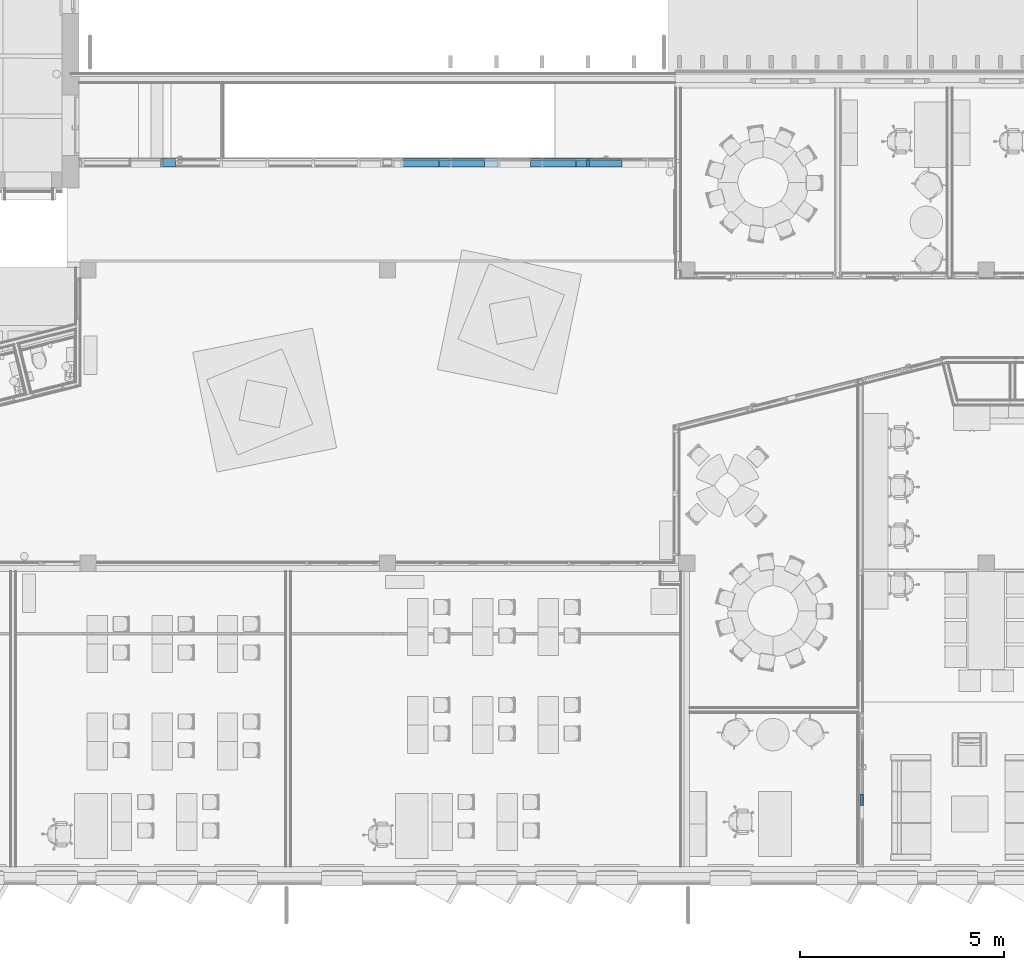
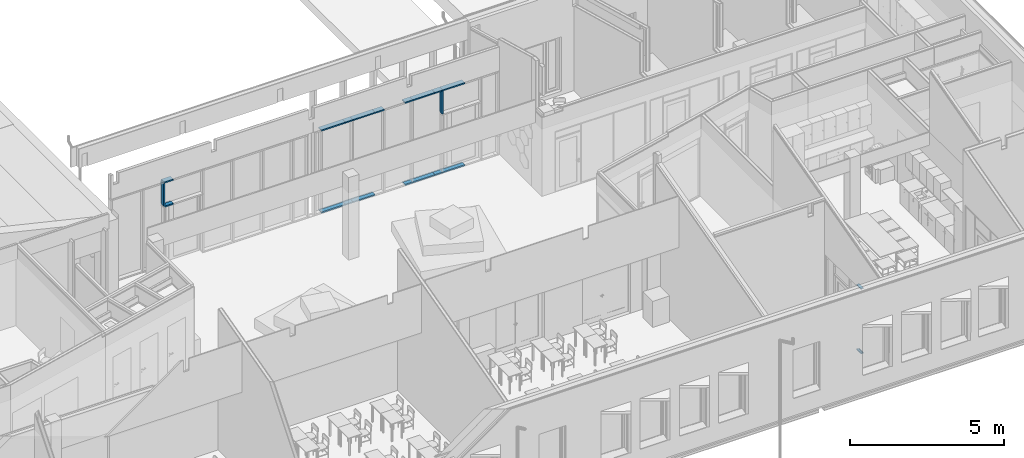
# One storey, part 4 of 153: 21 members, 3 elements without a shape of their own.
"""IFC2X3 building model written with IfcOpenShell, lengths in millimetres."""

from ifc_helpers import new_model, entity, si_unit, converted_unit, derived_unit, money_unit, direction, frame, origin_with_axes, place, context, subcontext, project, spatial, faceted_brep, source, transform, mapped, material, type_object, element, aggregate, save


model = new_model("IFC2X3")

# Units and contexts
model_context = context("Model", 3, precision=0.01, world=origin_with_axes(), true_north=direction((0.0, 1.0)))
body_context = subcontext(model_context, "Body", "Model", "MODEL_VIEW")
ifc_project = project(units=[si_unit("LENGTHUNIT", "METRE", prefix="MILLI"), si_unit("AREAUNIT", "SQUARE_METRE"), si_unit("VOLUMEUNIT", "CUBIC_METRE"), converted_unit("PLANEANGLEUNIT", "DEGREE", entity("IfcPlaneAngleMeasure", 0.0174532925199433), si_unit("PLANEANGLEUNIT", "RADIAN"), dimensions=[0, 0, 0, 0, 0, 0, 0]), money_unit("EUR"), converted_unit("TIMEUNIT", "Year", entity("IfcTimeMeasure", 31557600.0), si_unit("TIMEUNIT", "SECOND"), dimensions=[0, 0, 1, 0, 0, 0, 0]), si_unit("MASSUNIT", "GRAM", prefix="KILO"), si_unit("THERMODYNAMICTEMPERATUREUNIT", "DEGREE_CELSIUS"), si_unit("LUMINOUSINTENSITYUNIT", "LUMEN"), si_unit("ENERGYUNIT", "JOULE", prefix="MEGA"), derived_unit("THERMALCONDUCTANCEUNIT", [(si_unit("POWERUNIT", "WATT"), 1), (si_unit("LENGTHUNIT", "METRE"), -1), (si_unit("THERMODYNAMICTEMPERATUREUNIT", "KELVIN"), -1)]), derived_unit("SPECIFICHEATCAPACITYUNIT", [(si_unit("ENERGYUNIT", "JOULE"), 1), (si_unit("MASSUNIT", "GRAM", prefix="KILO"), -1), (si_unit("THERMODYNAMICTEMPERATUREUNIT", "KELVIN"), -1)]), derived_unit("MASSDENSITYUNIT", [(si_unit("MASSUNIT", "GRAM", prefix="KILO"), 1), (si_unit("VOLUMEUNIT", "CUBIC_METRE"), -1)])], contexts=[model_context])

# Site, building, storey
site_placement = place(None, frame((0.0, 0.0, 8650.0), z_axis=(0.0, 0.0, 1.0), x_axis=(1.0, 0.0, 0.0)))
site = spatial("IfcSite", under=ifc_project, at=site_placement, Name="43301:001:0844", CompositionType="ELEMENT")
building_placement = place(site_placement, origin_with_axes())
building = spatial("IfcBuilding", under=site, at=building_placement, Name="Kuressaare Ametikooli tuulikute mehaanikute õppekorpus", CompositionType="ELEMENT")
storey_placement = place(building_placement, frame((0.0, 0.0, 4100.0), z_axis=(0.0, 0.0, 1.0), x_axis=(1.0, 0.0, 0.0)))
storey = spatial("IfcBuildingStorey", under=building, at=storey_placement, Name="2.korrus", CompositionType="ELEMENT", Elevation=4100.0)

# Curtain wall, member
curtain_wall_type = type_object("IfcCurtainWallType", Name="Curtain Wall Type", PredefinedType="NOTDEFINED")
curtain_wall_1_placement = place(storey_placement, frame((107592.1026822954, 26479.57374875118, 34.9999663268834), z_axis=(0.0, 0.0, 1.0), x_axis=(1.0, 0.0, 0.0)))
curtain_wall_1 = element("IfcCurtainWall", 1, at=curtain_wall_1_placement, inside=storey, type_object=curtain_wall_type, Name="SKF-2.1,EI60")
ifc_material = material(Name="Aluminium")
member_type_1 = type_object("IfcMemberType", Name="Boundary Frame 50 x 200", PredefinedType="NOTDEFINED")
shared_shape_1 = source(origin_with_axes(), body_context, "Body", "Brep", [
    faceted_brep([(5.000000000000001, -20.0, 335.0000065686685), (5.000000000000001, 20.0, 335.0000065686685), (25.0, 20.0, 335.0000065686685), (25.0, 30.0, 335.0000065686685), (-25.0, 30.0, 335.0000065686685), (-25.0, 19.99999999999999, 335.0000065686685), (-5.000000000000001, 20.0, 335.0000065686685), (-5.000000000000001, -20.0, 335.0000065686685), (-25.0, -19.99999999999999, 335.0000065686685), (-25.0, -170.0, 335.0000065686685), (25.0, -170.0, 335.0000065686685), (25.0, -20.0, 335.0000065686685), (5.000000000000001, -20.0, -3.724831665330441e-05), (5.000000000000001, 20.0, -3.724831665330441e-05), (25.0, 20.0, -3.724831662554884e-05), (25.0, 30.0, -3.724831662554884e-05), (-25.0, 30.0, -3.724831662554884e-05), (-25.0, 19.99999999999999, -3.724831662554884e-05), (-5.000000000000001, 20.0, -3.724831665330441e-05), (-5.000000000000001, -20.0, -3.724831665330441e-05), (-25.0, -19.99999999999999, -3.724831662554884e-05), (-25.0, -170.0, -3.724831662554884e-05), (25.0, -170.0, -3.724831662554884e-05), (25.0, -20.0, -3.724831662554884e-05)], [[[0, 1, 2, 3, 4, 5, 6, 7, 8, 9, 10, 11]], [[0, 12, 13, 1]], [[1, 13, 14, 2]], [[14, 15, 3, 2]], [[3, 15, 16, 4]], [[17, 5, 4, 16]], [[5, 17, 18, 6]], [[7, 6, 18, 19]], [[8, 7, 19, 20]], [[8, 20, 21, 9]], [[9, 21, 22, 10]], [[11, 10, 22, 23]], [[11, 23, 12, 0]], [[13, 12, 23, 22, 21, 20, 19, 18, 17, 16, 15, 14]]]),
])
member_1_placement = place(curtain_wall_1_placement, frame((-1910.000006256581, 0.0, 2300.000005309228), z_axis=(1.0, 0.0, 0.0), x_axis=(0.0, 0.0, 1.0)))
member_1 = element("IfcMember", 2, at=member_1_placement, type_object=member_type_1, material=ifc_material, context=body_context, shape_type="MappedRepresentation", body=[
    mapped(shared_shape_1, transform((0.0, 0.0, 0.0), x_axis=(-1.0, 0.0, 0.0), y_axis=(0.0, -1.0, 0.0), z_axis=(0.0, 0.0, 1.0))),
])

# Curtain wall, members
curtain_wall_2_placement = place(storey_placement, frame((116907.3849272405, 26479.57374875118, 34.9999663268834), z_axis=(0.0, 0.0, 1.0), x_axis=(1.0, 0.0, 0.0)))
curtain_wall_2 = element("IfcCurtainWall", 3, at=curtain_wall_2_placement, inside=storey, type_object=curtain_wall_type, Name="SKF-2.2,EI60")
shared_shape_2 = source(origin_with_axes(), body_context, "Body", "Brep", [
    faceted_brep([(-5.000000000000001, -20.0, 289.1533159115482), (-25.0, -19.99999999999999, 289.1533159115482), (-25.0, -170.0, 289.1533159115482), (25.0, -170.0, 289.1533159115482), (25.0, 30.0, 289.1533159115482), (-25.0, 30.0, 289.1533159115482), (-25.0, 19.99999999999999, 289.1533159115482), (-5.000000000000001, 20.0, 289.1533159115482), (-5.000000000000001, -20.0, 0.0), (-25.0, -19.99999999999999, 0.0), (-25.0, -170.0, 0.0), (25.0, -170.0, 0.0), (25.0, 30.0, 0.0), (-25.0, 30.0, 0.0), (-25.0, 19.99999999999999, 0.0), (-5.000000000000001, 20.0, 0.0)], [[[0, 1, 2, 3, 4, 5, 6, 7]], [[0, 8, 9, 1]], [[9, 10, 2, 1]], [[10, 11, 3, 2]], [[11, 12, 4, 3]], [[12, 13, 5, 4]], [[6, 5, 13, 14]], [[14, 15, 7, 6]], [[7, 15, 8, 0]], [[8, 15, 14, 13, 12, 11, 10, 9]]]),
])
member_2_placement = place(curtain_wall_2_placement, frame((-4140.282223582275, 0.0, 3259.999983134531), z_axis=(-1.0, 0.0, 0.0), x_axis=(0.0, 0.0, -1.0)))
member_2 = element("IfcMember", 4, at=member_2_placement, type_object=member_type_1, material=ifc_material, context=body_context, shape_type="MappedRepresentation", body=[
    mapped(shared_shape_2, transform((0.0, 0.0, 0.0), x_axis=(-1.0, 0.0, 0.0), y_axis=(0.0, -1.0, 0.0), z_axis=(0.0, 0.0, 1.0))),
])
member_3_placement = place(curtain_wall_2_placement, frame((-1890.282222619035, 0.0, 3259.999983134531), z_axis=(-1.0, 0.0, 0.0), x_axis=(0.0, 0.0, -1.0)))
member_3 = element("IfcMember", 5, at=member_3_placement, type_object=member_type_1, material=ifc_material, context=body_context, shape_type="MappedRepresentation", body=[
    mapped(shared_shape_2, transform((0.0, 0.0, 0.0), x_axis=(-1.0, 0.0, 0.0), y_axis=(0.0, -1.0, 0.0), z_axis=(0.0, 0.0, 1.0))),
])
member_4_placement = place(curtain_wall_2_placement, frame((-765.2822250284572, 0.0, 3259.999983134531), z_axis=(-1.0, 0.0, 0.0), x_axis=(0.0, 0.0, -1.0)))
member_4 = element("IfcMember", 6, at=member_4_placement, type_object=member_type_1, material=ifc_material, context=body_context, shape_type="MappedRepresentation", body=[
    mapped(shared_shape_2, transform((0.0, 0.0, 0.0), x_axis=(-1.0, 0.0, 0.0), y_axis=(0.0, -1.0, 0.0), z_axis=(0.0, 0.0, 1.0))),
])
member_5_placement = place(curtain_wall_2_placement, frame((-2179.435552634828, 0.0, 0.0), z_axis=(1.0, 0.0, 0.0), x_axis=(0.0, 0.0, 1.0)))
member_5 = element("IfcMember", 7, at=member_5_placement, type_object=member_type_1, material=ifc_material, context=body_context, shape_type="MappedRepresentation", body=[
    mapped(shared_shape_2, transform((0.0, 0.0, 0.0), x_axis=(-1.0, 0.0, 0.0), y_axis=(0.0, -1.0, 0.0), z_axis=(0.0, 0.0, 1.0))),
])
member_6_placement = place(curtain_wall_2_placement, frame((-1054.435552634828, 0.0, 0.0), z_axis=(1.0, 0.0, 0.0), x_axis=(0.0, 0.0, 1.0)))
member_6 = element("IfcMember", 8, at=member_6_placement, type_object=member_type_1, material=ifc_material, context=body_context, shape_type="MappedRepresentation", body=[
    mapped(shared_shape_2, transform((0.0, 0.0, 0.0), x_axis=(-1.0, 0.0, 0.0), y_axis=(0.0, -1.0, 0.0), z_axis=(0.0, 0.0, 1.0))),
])
member_7_placement = place(curtain_wall_2_placement, frame((-4429.435552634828, 0.0, 0.0), z_axis=(1.0, 0.0, 0.0), x_axis=(0.0, 0.0, 1.0)))
member_7 = element("IfcMember", 9, at=member_7_placement, type_object=member_type_1, material=ifc_material, context=body_context, shape_type="MappedRepresentation", body=[
    mapped(shared_shape_2, transform((0.0, 0.0, 0.0), x_axis=(-1.0, 0.0, 0.0), y_axis=(0.0, -1.0, 0.0), z_axis=(0.0, 0.0, 1.0))),
])
shared_shape_3 = source(origin_with_axes(), body_context, "Body", "Brep", [
    faceted_brep([(-5.000000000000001, -20.0, 835.8466840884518), (-25.0, -19.99999999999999, 835.8466840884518), (-25.0, -170.0, 835.8466840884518), (25.0, -170.0, 835.8466840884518), (25.0, 30.0, 835.8466840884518), (-25.0, 30.0, 835.8466840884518), (-25.0, 19.99999999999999, 835.8466840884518), (-5.000000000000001, 20.0, 835.8466840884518), (-5.000000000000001, -20.0, 0.0), (-25.0, -19.99999999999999, 0.0), (-25.0, -170.0, 0.0), (25.0, -170.0, 0.0), (25.0, 30.0, 0.0), (-25.0, 30.0, 0.0), (-25.0, 19.99999999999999, 0.0), (-5.000000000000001, 20.0, 0.0)], [[[0, 1, 2, 3, 4, 5, 6, 7]], [[0, 8, 9, 1]], [[9, 10, 2, 1]], [[10, 11, 3, 2]], [[11, 12, 4, 3]], [[12, 13, 5, 4]], [[6, 5, 13, 14]], [[14, 15, 7, 6]], [[7, 15, 8, 0]], [[8, 15, 14, 13, 12, 11, 10, 9]]]),
])
member_8_placement = place(curtain_wall_2_placement, frame((-3304.435552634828, 0.0, 3259.999983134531), z_axis=(-1.0, 0.0, 0.0), x_axis=(0.0, 0.0, -1.0)))
member_8 = element("IfcMember", 10, at=member_8_placement, type_object=member_type_1, material=ifc_material, context=body_context, shape_type="MappedRepresentation", body=[
    mapped(shared_shape_3, transform((0.0, 0.0, 0.0), x_axis=(-1.0, 0.0, 0.0), y_axis=(0.0, -1.0, 0.0), z_axis=(0.0, 0.0, 1.0))),
])
member_9_placement = place(curtain_wall_2_placement, frame((-1054.435552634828, 0.0, 3259.999983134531), z_axis=(-1.0, 0.0, 0.0), x_axis=(0.0, 0.0, -1.0)))
member_9 = element("IfcMember", 11, at=member_9_placement, type_object=member_type_1, material=ifc_material, context=body_context, shape_type="MappedRepresentation", body=[
    mapped(shared_shape_3, transform((0.0, 0.0, 0.0), x_axis=(-1.0, 0.0, 0.0), y_axis=(0.0, -1.0, 0.0), z_axis=(0.0, 0.0, 1.0))),
])
member_10_placement = place(curtain_wall_2_placement, frame((70.56444736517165, 0.0, 3259.999983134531), z_axis=(-1.0, 0.0, 0.0), x_axis=(0.0, 0.0, -1.0)))
member_10 = element("IfcMember", 12, at=member_10_placement, type_object=member_type_1, material=ifc_material, context=body_context, shape_type="MappedRepresentation", body=[
    mapped(shared_shape_3, transform((0.0, 0.0, 0.0), x_axis=(-1.0, 0.0, 0.0), y_axis=(0.0, -1.0, 0.0), z_axis=(0.0, 0.0, 1.0))),
])
member_11_placement = place(curtain_wall_2_placement, frame((-4140.28223672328, 0.0, 0.0), z_axis=(1.0, 0.0, 0.0), x_axis=(0.0, 0.0, 1.0)))
member_11 = element("IfcMember", 13, at=member_11_placement, type_object=member_type_1, material=ifc_material, context=body_context, shape_type="MappedRepresentation", body=[
    mapped(shared_shape_3, transform((0.0, 0.0, 0.0), x_axis=(-1.0, 0.0, 0.0), y_axis=(0.0, -1.0, 0.0), z_axis=(0.0, 0.0, 1.0))),
])
member_12_placement = place(curtain_wall_2_placement, frame((-1890.28223576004, 0.0, 0.0), z_axis=(1.0, 0.0, 0.0), x_axis=(0.0, 0.0, 1.0)))
member_12 = element("IfcMember", 14, at=member_12_placement, type_object=member_type_1, material=ifc_material, context=body_context, shape_type="MappedRepresentation", body=[
    mapped(shared_shape_3, transform((0.0, 0.0, 0.0), x_axis=(-1.0, 0.0, 0.0), y_axis=(0.0, -1.0, 0.0), z_axis=(0.0, 0.0, 1.0))),
])
member_13_placement = place(curtain_wall_2_placement, frame((-765.2822352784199, 0.0, 0.0), z_axis=(1.0, 0.0, 0.0), x_axis=(0.0, 0.0, 1.0)))
member_13 = element("IfcMember", 15, at=member_13_placement, type_object=member_type_1, material=ifc_material, context=body_context, shape_type="MappedRepresentation", body=[
    mapped(shared_shape_3, transform((0.0, 0.0, 0.0), x_axis=(-1.0, 0.0, 0.0), y_axis=(0.0, -1.0, 0.0), z_axis=(0.0, 0.0, 1.0))),
])

curtain_wall_3_placement = place(storey_placement, frame((122879.3962682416, 12626.24529387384, 0.0), z_axis=(0.0, 0.0, 1.0), x_axis=(1.0, 0.0, 0.0)))
curtain_wall_3 = element("IfcCurtainWall", 16, at=curtain_wall_3_placement, inside=storey, type_object=curtain_wall_type, Name="PKF-3")
member_type_2 = type_object("IfcMemberType", Name="Boundary Frame 40 x 90", PredefinedType="NOTDEFINED")
shared_shape_4 = source(origin_with_axes(), body_context, "Body", "Brep", [
    faceted_brep([(-25.0, -15.0, 287.0486471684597), (-40.0, -15.0, 287.0486471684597), (-40.0, -65.0, 287.0486471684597), (0.0, -65.0, 287.0486471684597), (0.0, 0.0, 287.0486471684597), (0.0, 24.99999999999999, 287.0486471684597), (-40.0, 24.99999999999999, 287.0486471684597), (-40.0, 15.0, 287.0486471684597), (-25.0, 15.0, 287.0486471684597), (-25.0, -15.0, 0.0), (-40.0, -15.0, 0.0), (-40.0, -65.0, 0.0), (0.0, -65.0, 0.0), (0.0, 0.0, 0.0), (0.0, 24.99999999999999, 0.0), (-40.0, 24.99999999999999, 0.0), (-40.0, 15.0, 0.0), (-25.0, 15.0, 0.0)], [[[0, 1, 2, 3, 4, 5, 6, 7, 8]], [[0, 9, 10, 1]], [[10, 11, 2, 1]], [[11, 12, 3, 2]], [[12, 13, 4, 3]], [[13, 14, 5, 4]], [[14, 15, 6, 5]], [[7, 6, 15, 16]], [[16, 17, 8, 7]], [[8, 17, 9, 0]], [[9, 17, 16, 15, 14, 13, 12, 11, 10]]]),
])
member_14_placement = place(curtain_wall_3_placement, frame((0.0, -2004.984537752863, 2600.0), z_axis=(0.0, 1.0, 0.0), x_axis=(0.0, 0.0, 1.0)))
member_14 = element("IfcMember", 17, at=member_14_placement, type_object=member_type_2, material=ifc_material, context=body_context, shape_type="MappedRepresentation", body=[
    mapped(shared_shape_4, transform((0.0, 0.0, 0.0))),
])
shared_shape_5 = source(origin_with_axes(), body_context, "Body", "Brep", [
    faceted_brep([(25.0, -15.0, 287.0486471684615), (25.0, 15.0, 287.0486471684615), (40.0, 15.0, 287.0486471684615), (40.0, 24.99999999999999, 287.0486471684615), (0.0, 24.99999999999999, 287.0486471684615), (0.0, 0.0, 287.0486471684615), (0.0, -65.0, 287.0486471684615), (40.0, -65.0, 287.0486471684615), (40.0, -15.0, 287.0486471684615), (25.0, -15.0, 0.0), (25.0, 15.0, 0.0), (40.0, 15.0, 0.0), (40.0, 24.99999999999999, 0.0), (0.0, 24.99999999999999, 0.0), (0.0, 0.0, 0.0), (0.0, -65.0, 0.0), (40.0, -65.0, 0.0), (40.0, -15.0, 0.0)], [[[0, 1, 2, 3, 4, 5, 6, 7, 8]], [[1, 0, 9, 10]], [[11, 2, 1, 10]], [[2, 11, 12, 3]], [[13, 4, 3, 12]], [[14, 5, 4, 13]], [[15, 6, 5, 14]], [[16, 7, 6, 15]], [[17, 8, 7, 16]], [[0, 8, 17, 9]], [[9, 17, 16, 15, 14, 13, 12, 11, 10]]]),
])
member_15_placement = place(curtain_wall_3_placement, frame((0.0, -2004.984537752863, 0.0), z_axis=(0.0, 1.0, 0.0), x_axis=(0.0, 0.0, 1.0)))
member_15 = element("IfcMember", 18, at=member_15_placement, type_object=member_type_2, material=ifc_material, context=body_context, shape_type="MappedRepresentation", body=[
    mapped(shared_shape_5, transform((0.0, 0.0, 0.0))),
])
aggregate(curtain_wall_3, [member_14, member_15])

# Member
member_type_3 = type_object("IfcMemberType", Name="Mullion Frame 50 x 200", PredefinedType="NOTDEFINED")
shared_shape_6 = source(origin_with_axes(), body_context, "Body", "Brep", [
    faceted_brep([(5.000000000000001, -20.0, 935.0000344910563), (5.000000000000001, 20.0, 935.0000346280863), (25.0, 19.99999999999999, 935.0000346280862), (25.0, 30.0, 935.0000346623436), (-25.0, 30.0, 935.0000346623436), (-25.0, 20.0, 935.0000346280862), (-5.000000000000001, 20.0, 935.0000346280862), (-5.000000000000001, -20.0, 935.0000344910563), (-25.0, -20.0, 935.0000344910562), (-25.0, -170.0, 935.000033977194), (25.0, -170.0, 935.000033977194), (25.0, -19.99999999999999, 935.0000344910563), (5.000000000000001, -20.0, 25.00002973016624), (5.000000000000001, 20.0, 24.99997026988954), (25.0, 20.0, 24.99997026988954), (25.0, 30.0, 24.99995540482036), (-25.0, 30.0, 24.99995540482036), (-25.0, 19.99999999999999, 24.99997026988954), (-5.000000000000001, 20.0, 24.99997026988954), (-5.000000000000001, -20.0, 25.00002973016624), (-25.0, -19.99999999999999, 25.00002973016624), (-25.0, -170.0, 25.00025270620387), (25.0, -170.0, 25.00025270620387), (25.0, -20.0, 25.00002973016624)], [[[0, 1, 2, 3, 4, 5, 6, 7, 8, 9, 10, 11]], [[0, 12, 13, 1]], [[1, 13, 14, 2]], [[14, 15, 3, 2]], [[4, 3, 15, 16]], [[17, 5, 4, 16]], [[5, 17, 18, 6]], [[7, 6, 18, 19]], [[8, 7, 19, 20]], [[8, 20, 21, 9]], [[10, 9, 21, 22]], [[11, 10, 22, 23]], [[11, 23, 12, 0]], [[13, 12, 23, 22, 21, 20, 19, 18, 17, 16, 15, 14]]]),
])
member_16_placement = place(curtain_wall_1_placement, frame((-1919.216088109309, 0.0, 2300.000019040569), z_axis=(3.425748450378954e-09, 0.0, 1.0), x_axis=(-1.0, 0.0, 3.425748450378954e-09)))
member_16 = element("IfcMember", 19, at=member_16_placement, type_object=member_type_3, material=ifc_material, context=body_context, shape_type="MappedRepresentation", body=[
    mapped(shared_shape_6, transform((0.0, 0.0, 0.0), x_axis=(-1.0, 0.0, 3.425748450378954e-09), y_axis=(0.0, -1.0, 0.0), z_axis=(3.425748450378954e-09, 0.0, 1.0))),
])

member_17_placement = place(curtain_wall_2_placement, frame((-765.2822352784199, 0.0, 2300.000031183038), z_axis=(1.067704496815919e-08, 0.0, 1.0), x_axis=(-1.0, 0.0, 1.067704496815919e-08)))
member_17 = element("IfcMember", 20, at=member_17_placement, type_object=member_type_3, material=ifc_material, context=body_context, shape_type="MappedRepresentation", body=[
    mapped(shared_shape_6, transform((0.0, 0.0, 0.0), x_axis=(-1.0, 0.0, 1.067704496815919e-08), y_axis=(0.0, -1.0, 0.0), z_axis=(1.067704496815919e-08, 0.0, 1.0))),
])

shared_shape_7 = source(origin_with_axes(), body_context, "Body", "Brep", [
    faceted_brep([(-5.000000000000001, -20.0, 344.2160848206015), (-25.0, -19.99999999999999, 344.2160848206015), (-25.0, -170.0, 344.2160848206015), (25.0, -170.0, 344.2160848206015), (25.0, 30.0, 344.2160848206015), (-25.0, 30.0, 344.2160848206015), (-25.0, 19.99999999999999, 344.2160848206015), (-5.000000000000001, 20.0, 344.2160848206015), (-5.000000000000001, -20.0, 0.0), (-25.0, -19.99999999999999, 0.0), (-25.0, -170.0, 0.0), (25.0, -170.0, 0.0), (25.0, 30.0, 0.0), (-25.0, 30.0, 0.0), (-25.0, 19.99999999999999, 0.0), (-5.000000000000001, 20.0, 0.0)], [[[0, 1, 2, 3, 4, 5, 6, 7]], [[0, 8, 9, 1]], [[9, 10, 2, 1]], [[10, 11, 3, 2]], [[11, 12, 4, 3]], [[12, 13, 5, 4]], [[6, 5, 13, 14]], [[14, 15, 7, 6]], [[7, 15, 8, 0]], [[8, 15, 14, 13, 12, 11, 10, 9]]]),
])
member_18_placement = place(curtain_wall_1_placement, frame((-1574.999999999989, 0.0, 3260.00005360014), z_axis=(-1.0, 0.0, 0.0), x_axis=(0.0, 0.0, -1.0)))
member_18 = element("IfcMember", 21, at=member_18_placement, type_object=member_type_1, material=ifc_material, context=body_context, shape_type="MappedRepresentation", body=[
    mapped(shared_shape_7, transform((0.0, 0.0, 0.0), x_axis=(-1.0, 0.0, 0.0), y_axis=(0.0, -1.0, 0.0), z_axis=(0.0, 0.0, 1.0))),
])

aggregate(curtain_wall_1, [member_16, member_18, member_1])

member_19_placement = place(curtain_wall_2_placement, frame((-2960.219418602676, 0.0, 3259.99998313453), z_axis=(-1.0, 0.0, 0.0), x_axis=(0.0, 0.0, -1.0)))
member_19 = element("IfcMember", 22, at=member_19_placement, type_object=member_type_1, material=ifc_material, context=body_context, shape_type="MappedRepresentation", body=[
    mapped(shared_shape_7, transform((0.0, 0.0, 0.0), x_axis=(-1.0, 0.0, 0.0), y_axis=(0.0, -1.0, 0.0), z_axis=(0.0, 0.0, 1.0))),
])

shared_shape_8 = source(origin_with_axes(), body_context, "Body", "Brep", [
    faceted_brep([(-5.000000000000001, -20.0, 890.9094753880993), (-25.0, -19.99999999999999, 890.9094753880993), (-25.0, -170.0, 890.9094753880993), (25.0, -170.0, 890.9094753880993), (25.0, 30.0, 890.9094753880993), (-25.0, 30.0, 890.9094753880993), (-25.0, 19.99999999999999, 890.9094753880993), (-5.000000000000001, 20.0, 890.9094753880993), (-5.000000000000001, -20.0, 0.0), (-25.0, -19.99999999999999, 0.0), (-25.0, -170.0, 0.0), (25.0, -170.0, 0.0), (25.0, 30.0, 0.0), (-25.0, 30.0, 0.0), (-25.0, 19.99999999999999, 0.0), (-5.000000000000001, 20.0, 0.0)], [[[0, 1, 2, 3, 4, 5, 6, 7]], [[0, 8, 9, 1]], [[9, 10, 2, 1]], [[10, 11, 3, 2]], [[11, 12, 4, 3]], [[12, 13, 5, 4]], [[6, 5, 13, 14]], [[14, 15, 7, 6]], [[7, 15, 8, 0]], [[8, 15, 14, 13, 12, 11, 10, 9]]]),
])
member_20_placement = place(curtain_wall_2_placement, frame((-4429.435552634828, 0.0, 3259.999983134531), z_axis=(-1.0, 0.0, 0.0), x_axis=(0.0, 0.0, -1.0)))
member_20 = element("IfcMember", 23, at=member_20_placement, type_object=member_type_1, material=ifc_material, context=body_context, shape_type="MappedRepresentation", body=[
    mapped(shared_shape_8, transform((0.0, 0.0, 0.0), x_axis=(-1.0, 0.0, 0.0), y_axis=(0.0, -1.0, 0.0), z_axis=(0.0, 0.0, 1.0))),
])

member_21_placement = place(curtain_wall_2_placement, frame((-5320.345028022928, 0.0, 0.0), z_axis=(1.0, 0.0, 0.0), x_axis=(0.0, 0.0, 1.0)))
member_21 = element("IfcMember", 24, at=member_21_placement, type_object=member_type_1, material=ifc_material, context=body_context, shape_type="MappedRepresentation", body=[
    mapped(shared_shape_8, transform((0.0, 0.0, 0.0), x_axis=(-1.0, 0.0, 0.0), y_axis=(0.0, -1.0, 0.0), z_axis=(0.0, 0.0, 1.0))),
])

aggregate(curtain_wall_2, [member_20, member_2, member_8, member_19, member_9, member_3, member_4, member_17, member_10, member_21, member_11, member_12, member_5, member_6, member_13, member_7])

save(model, "model.ifc")
